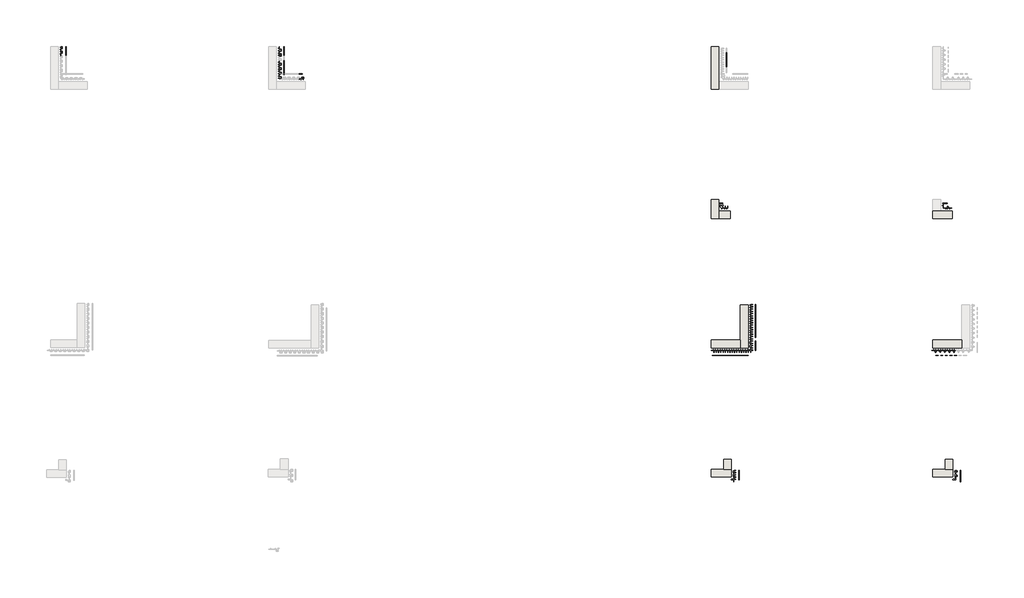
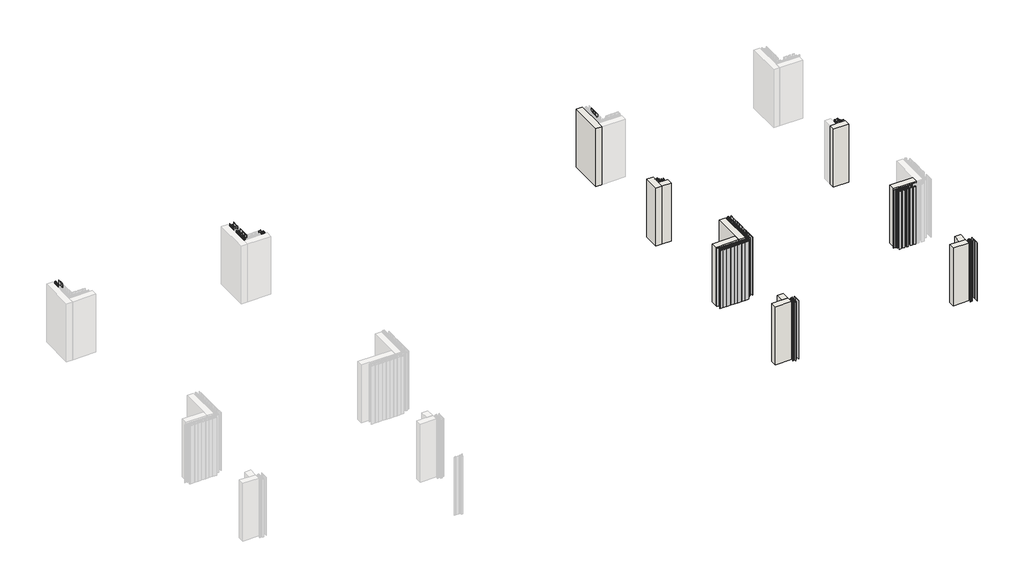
# One storey, part 4 of 5: 48 plates, 43 members, 11 walls.
"""IFC4 building model written with IfcOpenShell, lengths in millimetres."""

from ifc_helpers import new_model, si_unit, origin, origin_with_axes, place, context, project, spatial, polyline, outline, extrude, faceted_brep, transform, mapped, element, save
from components import rectangular_mullion_05be598c, rectangular_mullion_7167efe5, rectangular_mullion_7a3c55a6, rectangular_mullion_c17fce0e, rectangular_mullion_cac204a1, rectangular_mullion_3e5b5e47, rectangular_mullion_b2541346, rectangular_mullion_31400e68, rectangular_mullion_de2d1e93, rectangular_mullion_1797d992, rectangular_mullion_e9b3b9de, rectangular_mullion_48ee93ce, rectangular_mullion_e8a25713, rectangular_mullion_3e41cb3b, rectangular_mullion_2a772050, rectangular_mullion_e46097ff, empty_system_panel_empty_1becab5c, empty_system_panel_empty_1ebb3388, empty_system_panel_empty_e98d4713, empty_system_panel_empty_a56830bf, empty_system_panel_empty_3145cffd, empty_system_panel_empty_abc43946, empty_system_panel_empty_5cad0f82, empty_system_panel_empty_5dcf6e88, empty_system_panel_empty_f535094f, empty_system_panel_empty_5ee57205, empty_system_panel_empty_482ac549, empty_system_panel_empty_c6af10a3, empty_system_panel_empty_83ace052, empty_system_panel_empty_0b05d00b, empty_system_panel_empty_9f07cc8d, empty_system_panel_empty_fabe9b0d, empty_system_panel_empty_e2c7f9f0, empty_system_panel_empty_bd5c2647, empty_system_panel_empty_02ad7564

model = new_model("IFC4")

# Units and contexts
model_context = context("Model", 3, world=origin())
ifc_project = project(units=[si_unit("LENGTHUNIT", "METRE", prefix="MILLI")], contexts=[model_context])

# Site, building, storey
site = spatial("IfcSite", under=ifc_project)
building = spatial("IfcBuilding", under=site)
storey = spatial("IfcBuildingStorey", under=building, Name="REN - Ground plan", Elevation=0.0)

# Members
placement = place(None, origin())
rectangular_mullion_shape = rectangular_mullion_05be598c(model_context)
element("IfcMember", 1, ObjectType="Rectangular Mullion : Renson_Linarte_LA-CO-05", at=placement, inside=storey, context=model_context, shape_type="MappedRepresentation", body=[
    mapped(rectangular_mullion_shape, transform((15924.5640555, 8535.7400803, 0.0), x_axis=(0.0, -1.0, 0.0), y_axis=(-1.0, 0.0, 0.0), z_axis=(0.0, 0.0, -1.0))),
])
rectangular_mullion_2_shape = rectangular_mullion_7167efe5(model_context)
element("IfcMember", 2, ObjectType="Rectangular Mullion : Renson_Linarte_LA-CO-02", at=placement, inside=storey, context=model_context, shape_type="MappedRepresentation", body=[
    mapped(rectangular_mullion_2_shape, transform((15924.5640555, 8558.8845222, 1000.0), x_axis=(0.0, 1.0, 0.0), y_axis=(-1.0, 0.0, 0.0), z_axis=(0.0, 0.0, 1.0))),
])
rectangular_mullion_3_shape = rectangular_mullion_7a3c55a6(model_context)
element("IfcMember", 3, ObjectType="Rectangular Mullion : Renson_Linarte_LA-CO-03", at=placement, inside=storey, context=model_context, shape_type="MappedRepresentation", body=[
    mapped(rectangular_mullion_3_shape, transform((15924.5640557, 8434.9081347, 0.0), x_axis=(0.0, -1.0, 0.0), y_axis=(-1.0, 0.0, 0.0), z_axis=(0.0, 0.0, -1.0))),
])
rectangular_mullion_4_shape = rectangular_mullion_c17fce0e(model_context)
element("IfcMember", 4, ObjectType="Rectangular Mullion : Renson_Linarte_LA-CO-04", at=placement, inside=storey, context=model_context, shape_type="MappedRepresentation", body=[
    mapped(rectangular_mullion_4_shape, transform((15789.5640556, 11955.329319, 1000.0), x_axis=(-1.0, 0.0, 0.0), y_axis=(0.0, -1.0, 0.0), z_axis=(0.0, 0.0, 1.0))),
])
rectangular_mullion_5_shape = rectangular_mullion_cac204a1(model_context)
element("IfcMember", 5, ObjectType="Rectangular Mullion : Renson_Linarte_LA-CO-01", at=placement, inside=storey, context=model_context, shape_type="MappedRepresentation", body=[
    mapped(rectangular_mullion_5_shape, transform((15909.5640556, 11955.329319, 0.0), x_axis=(1.0, 0.0, 0.0), y_axis=(0.0, -1.0, 0.0), z_axis=(0.0, 0.0, -1.0))),
])
rectangular_mullion_6_shape = rectangular_mullion_3e5b5e47(model_context)
element("IfcMember", 6, ObjectType="Rectangular Mullion : Renson_Linarte_LA-B25-01", at=placement, inside=storey, context=model_context, shape_type="MappedRepresentation", body=[
    mapped(rectangular_mullion_6_shape, transform((7072.7344967, 14048.7579429, 0.0), x_axis=(0.0, -1.0, 0.0), y_axis=(-1.0, 0.0, 0.0), z_axis=(0.0, 0.0, -1.0))),
])
element("IfcMember", 7, ObjectType="Rectangular Mullion : Renson_Linarte_LA-B25-01", at=placement, inside=storey, context=model_context, shape_type="MappedRepresentation", body=[
    mapped(rectangular_mullion_6_shape, transform((7072.7344967, 13928.7579429, 0.0), x_axis=(0.0, -1.0, 0.0), y_axis=(-1.0, 0.0, 0.0), z_axis=(0.0, 0.0, -1.0))),
])
element("IfcMember", 8, ObjectType="Rectangular Mullion : Renson_Linarte_LA-B25-01", at=placement, inside=storey, context=model_context, shape_type="MappedRepresentation", body=[
    mapped(rectangular_mullion_6_shape, transform((7072.7344967, 13868.7579429, 0.0), x_axis=(0.0, -1.0, 0.0), y_axis=(-1.0, 0.0, 0.0), z_axis=(0.0, 0.0, -1.0))),
])
element("IfcMember", 9, ObjectType="Rectangular Mullion : Renson_Linarte_LA-B25-01", at=placement, inside=storey, context=model_context, shape_type="MappedRepresentation", body=[
    mapped(rectangular_mullion_6_shape, transform((7072.7344967, 13808.7579429, 0.0), x_axis=(0.0, -1.0, 0.0), y_axis=(-1.0, 0.0, 0.0), z_axis=(0.0, 0.0, -1.0))),
])
element("IfcMember", 10, ObjectType="Rectangular Mullion : Renson_Linarte_LA-B25-01", at=placement, inside=storey, context=model_context, shape_type="MappedRepresentation", body=[
    mapped(rectangular_mullion_6_shape, transform((7072.7344967, 13748.7579429, 0.0), x_axis=(0.0, -1.0, 0.0), y_axis=(-1.0, 0.0, 0.0), z_axis=(0.0, 0.0, -1.0))),
])
element("IfcMember", 11, ObjectType="Rectangular Mullion : Renson_Linarte_LA-B25-01", at=placement, inside=storey, context=model_context, shape_type="MappedRepresentation", body=[
    mapped(rectangular_mullion_6_shape, transform((7367.734497, 13647.7579432, 0.0), x_axis=(1.0, 0.0, 0.0), y_axis=(0.0, -1.0, 0.0), z_axis=(0.0, 0.0, -1.0))),
])
rectangular_mullion_7_shape = rectangular_mullion_b2541346(model_context)
element("IfcMember", 12, ObjectType="Rectangular Mullion : Renson_Linarte_LA-B25-01", at=placement, inside=storey, context=model_context, shape_type="MappedRepresentation", body=[
    mapped(rectangular_mullion_7_shape, transform((7072.7344967, 14108.7579432, 1000.0), x_axis=(0.0, 1.0, 0.0), y_axis=(-1.0, 0.0, 0.0), z_axis=(0.0, 0.0, 1.0))),
])
rectangular_mullion_8_shape = rectangular_mullion_31400e68(model_context)
element("IfcMember", 13, ObjectType="Rectangular Mullion : Renson_Linarte_LA-B16-01", at=placement, inside=storey, context=model_context, shape_type="MappedRepresentation", body=[
    mapped(rectangular_mullion_8_shape, transform((4216.7742527, 14048.7579429, 0.0), x_axis=(0.0, -1.0, 0.0), y_axis=(-1.0, 0.0, 0.0), z_axis=(0.0, 0.0, -1.0))),
])
rectangular_mullion_9_shape = rectangular_mullion_de2d1e93(model_context)
element("IfcMember", 14, ObjectType="Rectangular Mullion : Renson_Linarte_LA-B16-01", at=placement, inside=storey, context=model_context, shape_type="MappedRepresentation", body=[
    mapped(rectangular_mullion_9_shape, transform((4216.7742527, 14108.7579432, 1000.0), x_axis=(0.0, 1.0, 0.0), y_axis=(-1.0, 0.0, 0.0), z_axis=(0.0, 0.0, 1.0))),
])
rectangular_mullion_10_shape = rectangular_mullion_1797d992(model_context)
element("IfcMember", 15, ObjectType="Rectangular Mullion : Renson_Linarte_LA-E25-01", at=placement, inside=storey, context=model_context, shape_type="MappedRepresentation", body=[
    mapped(rectangular_mullion_10_shape, transform((13244.5640555, 10731.3006456, 1000.0), x_axis=(0.0, 1.0, 0.0), y_axis=(-1.0, 0.0, 0.0), z_axis=(0.0, 0.0, 1.0))),
])
element("IfcMember", 16, ObjectType="Rectangular Mullion : Renson_Linarte_LA-E25-01", at=placement, inside=storey, context=model_context, shape_type="MappedRepresentation", body=[
    mapped(rectangular_mullion_10_shape, transform((13249.6640552, 10162.9006947, 1000.0), x_axis=(1.0, 0.0, 0.0), y_axis=(0.0, 1.0, 0.0), z_axis=(0.0, 0.0, 1.0))),
])
rectangular_mullion_11_shape = rectangular_mullion_e9b3b9de(model_context)
element("IfcMember", 17, ObjectType="Rectangular Mullion : Renson_Linarte_LA-E25-01", at=placement, inside=storey, context=model_context, shape_type="MappedRepresentation", body=[
    mapped(rectangular_mullion_11_shape, transform((13244.5640555, 10671.3006453, 0.0), x_axis=(0.0, -1.0, 0.0), y_axis=(-1.0, 0.0, 0.0), z_axis=(0.0, 0.0, -1.0))),
])
element("IfcMember", 18, ObjectType="Rectangular Mullion : Renson_Linarte_LA-E25-01", at=placement, inside=storey, context=model_context, shape_type="MappedRepresentation", body=[
    mapped(rectangular_mullion_11_shape, transform((13244.5640555, 10611.3006453, 0.0), x_axis=(0.0, -1.0, 0.0), y_axis=(-1.0, 0.0, 0.0), z_axis=(0.0, 0.0, -1.0))),
])
element("IfcMember", 19, ObjectType="Rectangular Mullion : Renson_Linarte_LA-E25-01", at=placement, inside=storey, context=model_context, shape_type="MappedRepresentation", body=[
    mapped(rectangular_mullion_11_shape, transform((13244.5640555, 10551.3006453, 0.0), x_axis=(0.0, -1.0, 0.0), y_axis=(-1.0, 0.0, 0.0), z_axis=(0.0, 0.0, -1.0))),
])
element("IfcMember", 20, ObjectType="Rectangular Mullion : Renson_Linarte_LA-E25-01", at=placement, inside=storey, context=model_context, shape_type="MappedRepresentation", body=[
    mapped(rectangular_mullion_11_shape, transform((13244.5640555, 10491.3006453, 0.0), x_axis=(0.0, -1.0, 0.0), y_axis=(-1.0, 0.0, 0.0), z_axis=(0.0, 0.0, -1.0))),
])
element("IfcMember", 21, ObjectType="Rectangular Mullion : Renson_Linarte_LA-E25-01", at=placement, inside=storey, context=model_context, shape_type="MappedRepresentation", body=[
    mapped(rectangular_mullion_11_shape, transform((13244.5640555, 10431.3006453, 0.0), x_axis=(0.0, -1.0, 0.0), y_axis=(-1.0, 0.0, 0.0), z_axis=(0.0, 0.0, -1.0))),
])
element("IfcMember", 22, ObjectType="Rectangular Mullion : Renson_Linarte_LA-E25-01", at=placement, inside=storey, context=model_context, shape_type="MappedRepresentation", body=[
    mapped(rectangular_mullion_11_shape, transform((13189.6640549, 10162.9006947, 0.0), x_axis=(-1.0, 0.0, 0.0), y_axis=(0.0, 1.0, 0.0), z_axis=(0.0, 0.0, -1.0))),
])
element("IfcMember", 23, ObjectType="Rectangular Mullion : Renson_Linarte_LA-E25-01", at=placement, inside=storey, context=model_context, shape_type="MappedRepresentation", body=[
    mapped(rectangular_mullion_11_shape, transform((13129.6640549, 10162.9006947, 0.0), x_axis=(-1.0, 0.0, 0.0), y_axis=(0.0, 1.0, 0.0), z_axis=(0.0, 0.0, -1.0))),
])
element("IfcMember", 24, ObjectType="Rectangular Mullion : Renson_Linarte_LA-E25-01", at=placement, inside=storey, context=model_context, shape_type="MappedRepresentation", body=[
    mapped(rectangular_mullion_11_shape, transform((13069.6640549, 10162.9006947, 0.0), x_axis=(-1.0, 0.0, 0.0), y_axis=(0.0, 1.0, 0.0), z_axis=(0.0, 0.0, -1.0))),
])
element("IfcMember", 25, ObjectType="Rectangular Mullion : Renson_Linarte_LA-E25-01", at=placement, inside=storey, context=model_context, shape_type="MappedRepresentation", body=[
    mapped(rectangular_mullion_11_shape, transform((13009.6640549, 10162.9006947, 0.0), x_axis=(-1.0, 0.0, 0.0), y_axis=(0.0, 1.0, 0.0), z_axis=(0.0, 0.0, -1.0))),
])
element("IfcMember", 26, ObjectType="Rectangular Mullion : Renson_Linarte_LA-E25-01", at=placement, inside=storey, context=model_context, shape_type="MappedRepresentation", body=[
    mapped(rectangular_mullion_11_shape, transform((12949.6640549, 10162.9006947, 0.0), x_axis=(-1.0, 0.0, 0.0), y_axis=(0.0, 1.0, 0.0), z_axis=(0.0, 0.0, -1.0))),
])
element("IfcMember", 27, ObjectType="Rectangular Mullion : Renson_Linarte_LA-E25-01", at=placement, inside=storey, context=model_context, shape_type="MappedRepresentation", body=[
    mapped(rectangular_mullion_11_shape, transform((12889.6640549, 10162.9006947, 0.0), x_axis=(-1.0, 0.0, 0.0), y_axis=(0.0, 1.0, 0.0), z_axis=(0.0, 0.0, -1.0))),
])
element("IfcMember", 28, ObjectType="Rectangular Mullion : Renson_Linarte_LA-E25-01", at=placement, inside=storey, context=model_context, shape_type="MappedRepresentation", body=[
    mapped(rectangular_mullion_11_shape, transform((13244.5640555, 10371.3006453, 0.0), x_axis=(0.0, -1.0, 0.0), y_axis=(-1.0, 0.0, 0.0), z_axis=(0.0, 0.0, -1.0))),
])
element("IfcMember", 29, ObjectType="Rectangular Mullion : Renson_Linarte_LA-E25-01", at=placement, inside=storey, context=model_context, shape_type="MappedRepresentation", body=[
    mapped(rectangular_mullion_11_shape, transform((13244.5640555, 10311.3006453, 0.0), x_axis=(0.0, -1.0, 0.0), y_axis=(-1.0, 0.0, 0.0), z_axis=(0.0, 0.0, -1.0))),
])
element("IfcMember", 30, ObjectType="Rectangular Mullion : Renson_Linarte_LA-E25-01", at=placement, inside=storey, context=model_context, shape_type="MappedRepresentation", body=[
    mapped(rectangular_mullion_11_shape, transform((12829.6640549, 10162.9006947, 0.0), x_axis=(-1.0, 0.0, 0.0), y_axis=(0.0, 1.0, 0.0), z_axis=(0.0, 0.0, -1.0))),
])
rectangular_mullion_12_shape = rectangular_mullion_48ee93ce(model_context)
element("IfcMember", 31, ObjectType="Rectangular Mullion : Renson_Linarte_LA-E25-05", at=placement, inside=storey, context=model_context, shape_type="MappedRepresentation", body=[
    mapped(rectangular_mullion_12_shape, transform((13244.5640555, 10228.1562035, 0.0), x_axis=(0.0, -1.0, 0.0), y_axis=(-1.0, 0.0, 0.0), z_axis=(0.0, 0.0, -1.0))),
])
element("IfcMember", 32, ObjectType="Rectangular Mullion : Renson_Linarte_LA-E25-05", at=placement, inside=storey, context=model_context, shape_type="MappedRepresentation", body=[
    mapped(rectangular_mullion_12_shape, transform((13024.5640555, 8535.7275792, 0.0), x_axis=(0.0, -1.0, 0.0), y_axis=(-1.0, 0.0, 0.0), z_axis=(0.0, 0.0, -1.0))),
])
rectangular_mullion_13_shape = rectangular_mullion_e8a25713(model_context)
element("IfcMember", 33, ObjectType="Rectangular Mullion : Renson_Linarte_LA-E25-02", at=placement, inside=storey, context=model_context, shape_type="MappedRepresentation", body=[
    mapped(rectangular_mullion_13_shape, transform((13244.5640555, 10251.3006453, 1000.0), x_axis=(0.0, 1.0, 0.0), y_axis=(-1.0, 0.0, 0.0), z_axis=(0.0, 0.0, 1.0))),
])
element("IfcMember", 34, ObjectType="Rectangular Mullion : Renson_Linarte_LA-E25-02", at=placement, inside=storey, context=model_context, shape_type="MappedRepresentation", body=[
    mapped(rectangular_mullion_13_shape, transform((13024.5640555, 8558.8720211, 1000.0), x_axis=(0.0, 1.0, 0.0), y_axis=(-1.0, 0.0, 0.0), z_axis=(0.0, 0.0, 1.0))),
])
rectangular_mullion_14_shape = rectangular_mullion_3e41cb3b(model_context)
element("IfcMember", 35, ObjectType="Rectangular Mullion : Renson_Linarte_LA-E25-03", at=placement, inside=storey, context=model_context, shape_type="MappedRepresentation", body=[
    mapped(rectangular_mullion_14_shape, transform((13244.5640555, 10101.3006453, 0.0), x_axis=(0.0, -1.0, 0.0), y_axis=(-1.0, 0.0, 0.0), z_axis=(0.0, 0.0, -1.0))),
])
element("IfcMember", 36, ObjectType="Rectangular Mullion : Renson_Linarte_LA-E25-03", at=placement, inside=storey, context=model_context, shape_type="MappedRepresentation", body=[
    mapped(rectangular_mullion_14_shape, transform((13024.5640555, 8408.8720211, 0.0), x_axis=(0.0, -1.0, 0.0), y_axis=(-1.0, 0.0, 0.0), z_axis=(0.0, 0.0, -1.0))),
])
rectangular_mullion_15_shape = rectangular_mullion_2a772050(model_context)
element("IfcMember", 37, ObjectType="Rectangular Mullion : Renson_Linarte_LA-A04", at=placement, inside=storey, context=model_context, shape_type="MappedRepresentation", body=[
    mapped(rectangular_mullion_15_shape, transform((12864.5640554, 11955.329319, 1000.0), x_axis=(-1.0, 0.0, 0.0), y_axis=(0.0, -1.0, 0.0), z_axis=(0.0, 0.0, 1.0))),
])
element("IfcMember", 38, ObjectType="Rectangular Mullion : Renson_Linarte_LA-E25-01_", at=placement, inside=storey, context=model_context, shape_type="MappedRepresentation", body=[
    mapped(rectangular_mullion_10_shape, transform((12979.5640554, 11955.329319, 0.0), x_axis=(1.0, 0.0, 0.0), y_axis=(0.0, -1.0, 0.0), z_axis=(0.0, 0.0, -1.0))),
])
rectangular_mullion_16_shape = rectangular_mullion_e46097ff(model_context)
element("IfcMember", 39, ObjectType="Rectangular Mullion : Renson_Linarte_LA-CO-01", at=placement, inside=storey, context=model_context, shape_type="MappedRepresentation", body=[
    mapped(rectangular_mullion_16_shape, transform((15955.5642221, 10162.9006947, 0.0), x_axis=(-1.0, 0.0, 0.0), y_axis=(0.0, 1.0, 0.0), z_axis=(0.0, 0.0, -1.0))),
])
element("IfcMember", 40, ObjectType="Rectangular Mullion : Renson_Linarte_LA-CO-01", at=placement, inside=storey, context=model_context, shape_type="MappedRepresentation", body=[
    mapped(rectangular_mullion_16_shape, transform((15895.5642221, 10162.9006947, 0.0), x_axis=(-1.0, 0.0, 0.0), y_axis=(0.0, 1.0, 0.0), z_axis=(0.0, 0.0, -1.0))),
])
element("IfcMember", 41, ObjectType="Rectangular Mullion : Renson_Linarte_LA-CO-01", at=placement, inside=storey, context=model_context, shape_type="MappedRepresentation", body=[
    mapped(rectangular_mullion_16_shape, transform((15835.5642221, 10162.9006947, 0.0), x_axis=(-1.0, 0.0, 0.0), y_axis=(0.0, 1.0, 0.0), z_axis=(0.0, 0.0, -1.0))),
])
element("IfcMember", 42, ObjectType="Rectangular Mullion : Renson_Linarte_LA-CO-01", at=placement, inside=storey, context=model_context, shape_type="MappedRepresentation", body=[
    mapped(rectangular_mullion_16_shape, transform((15775.5642221, 10162.9006947, 0.0), x_axis=(-1.0, 0.0, 0.0), y_axis=(0.0, 1.0, 0.0), z_axis=(0.0, 0.0, -1.0))),
])
element("IfcMember", 43, ObjectType="Rectangular Mullion : Renson_Linarte_LA-CO-01", at=placement, inside=storey, context=model_context, shape_type="MappedRepresentation", body=[
    mapped(rectangular_mullion_16_shape, transform((15715.5642221, 10162.9006947, 0.0), x_axis=(-1.0, 0.0, 0.0), y_axis=(0.0, 1.0, 0.0), z_axis=(0.0, 0.0, -1.0))),
])

# Plates
empty_system_panel_empty_shape = empty_system_panel_empty_1becab5c(model_context)
element("IfcPlate", 44, ObjectType="Empty System Panel : Empty", at=placement, inside=storey, context=model_context, shape_type="MappedRepresentation", body=[
    mapped(empty_system_panel_empty_shape, transform((15924.5640555, 8536.97411, 0.0), x_axis=(0.0, -1.0, 0.0), y_axis=(1.0, 0.0, 0.0), z_axis=(0.0, 0.0, 1.0))),
])
empty_system_panel_empty_2_shape = empty_system_panel_empty_1ebb3388(model_context)
element("IfcPlate", 45, ObjectType="Empty System Panel : Empty", at=placement, inside=storey, context=model_context, shape_type="MappedRepresentation", body=[
    mapped(empty_system_panel_empty_2_shape, transform((15924.5640555, 8503.9593553, 0.0), x_axis=(0.0, -1.0, 0.0), y_axis=(1.0, 0.0, 0.0), z_axis=(0.0, 0.0, 1.0))),
])
empty_system_panel_empty_3_shape = empty_system_panel_empty_e98d4713(model_context)
element("IfcPlate", 46, ObjectType="Empty System Panel : Empty", at=placement, inside=storey, context=model_context, shape_type="MappedRepresentation", body=[
    mapped(empty_system_panel_empty_3_shape, transform((15924.5640555, 8440.5315763, 0.0), x_axis=(0.0, -1.0, 0.0), y_axis=(1.0, 0.0, 0.0), z_axis=(0.0, 0.0, 1.0))),
])
empty_system_panel_empty_4_shape = empty_system_panel_empty_a56830bf(model_context)
element("IfcPlate", 47, ObjectType="Empty System Panel : Empty", at=placement, inside=storey, context=model_context, shape_type="MappedRepresentation", body=[
    mapped(empty_system_panel_empty_4_shape, transform((15924.5640555, 8514.2998, 0.0), x_axis=(0.0, -1.0, 0.0), y_axis=(1.0, 0.0, 0.0), z_axis=(0.0, 0.0, 1.0))),
])
empty_system_panel_empty_5_shape = empty_system_panel_empty_3145cffd(model_context)
element("IfcPlate", 48, ObjectType="Empty System Panel : Empty", at=placement, inside=storey, context=model_context, shape_type="MappedRepresentation", body=[
    mapped(empty_system_panel_empty_5_shape, transform((15924.5640555, 8459.8720207, 0.0), x_axis=(0.0, -1.0, 0.0), y_axis=(1.0, 0.0, 0.0), z_axis=(0.0, 0.0, 1.0))),
])
empty_system_panel_empty_6_shape = empty_system_panel_empty_abc43946(model_context)
element("IfcPlate", 49, ObjectType="Empty System Panel : Empty", at=placement, inside=storey, context=model_context, shape_type="MappedRepresentation", body=[
    mapped(empty_system_panel_empty_6_shape, transform((15924.5640555, 8417.8720209, 0.0), x_axis=(0.0, -1.0, 0.0), y_axis=(1.0, 0.0, 0.0), z_axis=(0.0, 0.0, 1.0))),
])
empty_system_panel_empty_7_shape = empty_system_panel_empty_5cad0f82(model_context)
element("IfcPlate", 50, ObjectType="Empty System Panel : Empty", at=placement, inside=storey, context=model_context, shape_type="MappedRepresentation", body=[
    mapped(empty_system_panel_empty_7_shape, transform((15924.5640557, 8487.4720703, 0.0), x_axis=(0.0, -1.0, 0.0), y_axis=(1.0, 0.0, 0.0), z_axis=(0.0, 0.0, 1.0))),
])
empty_system_panel_empty_8_shape = empty_system_panel_empty_5dcf6e88(model_context)
element("IfcPlate", 51, ObjectType="Empty System Panel : Empty", at=placement, inside=storey, context=model_context, shape_type="MappedRepresentation", body=[
    mapped(empty_system_panel_empty_8_shape, transform((15821.8433367, 11955.329319, 0.0), x_axis=(1.0, 0.0, 0.0), y_axis=(0.0, 1.0, 0.0), z_axis=(0.0, 0.0, 1.0))),
])
empty_system_panel_empty_9_shape = empty_system_panel_empty_f535094f(model_context)
element("IfcPlate", 52, ObjectType="Empty System Panel : Empty", at=placement, inside=storey, context=model_context, shape_type="MappedRepresentation", body=[
    mapped(empty_system_panel_empty_9_shape, transform((15851.384756, 11955.329319, 0.0), x_axis=(1.0, 0.0, 0.0), y_axis=(0.0, 1.0, 0.0), z_axis=(0.0, 0.0, 1.0))),
])
empty_system_panel_empty_10_shape = empty_system_panel_empty_5ee57205(model_context)
element("IfcPlate", 53, ObjectType="Empty System Panel : Empty", at=placement, inside=storey, context=model_context, shape_type="MappedRepresentation", body=[
    mapped(empty_system_panel_empty_10_shape, transform((13244.5640555, 10641.3006453, 0.0), x_axis=(0.0, -1.0, 0.0), y_axis=(1.0, 0.0, 0.0), z_axis=(0.0, 0.0, 1.0))),
])
element("IfcPlate", 54, ObjectType="Empty System Panel : Empty", at=placement, inside=storey, context=model_context, shape_type="MappedRepresentation", body=[
    mapped(empty_system_panel_empty_10_shape, transform((13244.5640555, 10581.3006453, 0.0), x_axis=(0.0, -1.0, 0.0), y_axis=(1.0, 0.0, 0.0), z_axis=(0.0, 0.0, 1.0))),
])
element("IfcPlate", 55, ObjectType="Empty System Panel : Empty", at=placement, inside=storey, context=model_context, shape_type="MappedRepresentation", body=[
    mapped(empty_system_panel_empty_10_shape, transform((13244.5640555, 10521.3006453, 0.0), x_axis=(0.0, -1.0, 0.0), y_axis=(1.0, 0.0, 0.0), z_axis=(0.0, 0.0, 1.0))),
])
element("IfcPlate", 56, ObjectType="Empty System Panel : Empty", at=placement, inside=storey, context=model_context, shape_type="MappedRepresentation", body=[
    mapped(empty_system_panel_empty_10_shape, transform((13244.5640555, 10461.3006453, 0.0), x_axis=(0.0, -1.0, 0.0), y_axis=(1.0, 0.0, 0.0), z_axis=(0.0, 0.0, 1.0))),
])
element("IfcPlate", 57, ObjectType="Empty System Panel : Empty", at=placement, inside=storey, context=model_context, shape_type="MappedRepresentation", body=[
    mapped(empty_system_panel_empty_10_shape, transform((13244.5640555, 10401.3006453, 0.0), x_axis=(0.0, -1.0, 0.0), y_axis=(1.0, 0.0, 0.0), z_axis=(0.0, 0.0, 1.0))),
])
element("IfcPlate", 58, ObjectType="Empty System Panel : Empty", at=placement, inside=storey, context=model_context, shape_type="MappedRepresentation", body=[
    mapped(empty_system_panel_empty_10_shape, transform((13159.6640549, 10162.9006947, 0.0), x_axis=(-1.0, 0.0, 0.0), y_axis=(0.0, -1.0, 0.0), z_axis=(0.0, 0.0, 1.0))),
])
element("IfcPlate", 59, ObjectType="Empty System Panel : Empty", at=placement, inside=storey, context=model_context, shape_type="MappedRepresentation", body=[
    mapped(empty_system_panel_empty_10_shape, transform((13099.6640549, 10162.9006947, 0.0), x_axis=(-1.0, 0.0, 0.0), y_axis=(0.0, -1.0, 0.0), z_axis=(0.0, 0.0, 1.0))),
])
element("IfcPlate", 60, ObjectType="Empty System Panel : Empty", at=placement, inside=storey, context=model_context, shape_type="MappedRepresentation", body=[
    mapped(empty_system_panel_empty_10_shape, transform((13039.6640549, 10162.9006947, 0.0), x_axis=(-1.0, 0.0, 0.0), y_axis=(0.0, -1.0, 0.0), z_axis=(0.0, 0.0, 1.0))),
])
element("IfcPlate", 61, ObjectType="Empty System Panel : Empty", at=placement, inside=storey, context=model_context, shape_type="MappedRepresentation", body=[
    mapped(empty_system_panel_empty_10_shape, transform((12979.6640549, 10162.9006947, 0.0), x_axis=(-1.0, 0.0, 0.0), y_axis=(0.0, -1.0, 0.0), z_axis=(0.0, 0.0, 1.0))),
])
element("IfcPlate", 62, ObjectType="Empty System Panel : Empty", at=placement, inside=storey, context=model_context, shape_type="MappedRepresentation", body=[
    mapped(empty_system_panel_empty_10_shape, transform((12919.6640549, 10162.9006947, 0.0), x_axis=(-1.0, 0.0, 0.0), y_axis=(0.0, -1.0, 0.0), z_axis=(0.0, 0.0, 1.0))),
])
element("IfcPlate", 63, ObjectType="Empty System Panel : Empty", at=placement, inside=storey, context=model_context, shape_type="MappedRepresentation", body=[
    mapped(empty_system_panel_empty_10_shape, transform((12859.6640549, 10162.9006947, 0.0), x_axis=(-1.0, 0.0, 0.0), y_axis=(0.0, -1.0, 0.0), z_axis=(0.0, 0.0, 1.0))),
])
element("IfcPlate", 64, ObjectType="Empty System Panel : Empty", at=placement, inside=storey, context=model_context, shape_type="MappedRepresentation", body=[
    mapped(empty_system_panel_empty_10_shape, transform((13244.5640555, 10341.3006453, 0.0), x_axis=(0.0, -1.0, 0.0), y_axis=(1.0, 0.0, 0.0), z_axis=(0.0, 0.0, 1.0))),
])
element("IfcPlate", 65, ObjectType="Empty System Panel : Empty", at=placement, inside=storey, context=model_context, shape_type="MappedRepresentation", body=[
    mapped(empty_system_panel_empty_10_shape, transform((12864.5640556, 13995.2579429, 0.0), x_axis=(0.0, -1.0, 0.0), y_axis=(1.0, 0.0, 0.0), z_axis=(0.0, 0.0, 1.0))),
])
element("IfcPlate", 66, ObjectType="Empty System Panel : Empty", at=placement, inside=storey, context=model_context, shape_type="MappedRepresentation", body=[
    mapped(empty_system_panel_empty_10_shape, transform((12864.5640556, 13935.2579429, 0.0), x_axis=(0.0, -1.0, 0.0), y_axis=(1.0, 0.0, 0.0), z_axis=(0.0, 0.0, 1.0))),
])
element("IfcPlate", 67, ObjectType="Empty System Panel : Empty", at=placement, inside=storey, context=model_context, shape_type="MappedRepresentation", body=[
    mapped(empty_system_panel_empty_10_shape, transform((12864.5640556, 13875.2579429, 0.0), x_axis=(0.0, -1.0, 0.0), y_axis=(1.0, 0.0, 0.0), z_axis=(0.0, 0.0, 1.0))),
])
element("IfcPlate", 68, ObjectType="Empty System Panel : Empty", at=placement, inside=storey, context=model_context, shape_type="MappedRepresentation", body=[
    mapped(empty_system_panel_empty_10_shape, transform((4216.7742527, 14018.7579429, 0.0), x_axis=(0.0, -1.0, 0.0), y_axis=(1.0, 0.0, 0.0), z_axis=(0.0, 0.0, 1.0))),
])
element("IfcPlate", 69, ObjectType="Empty System Panel : Empty", at=placement, inside=storey, context=model_context, shape_type="MappedRepresentation", body=[
    mapped(empty_system_panel_empty_10_shape, transform((7072.7344967, 14018.7579429, 0.0), x_axis=(0.0, -1.0, 0.0), y_axis=(1.0, 0.0, 0.0), z_axis=(0.0, 0.0, 1.0))),
])
element("IfcPlate", 70, ObjectType="Empty System Panel : Empty", at=placement, inside=storey, context=model_context, shape_type="MappedRepresentation", body=[
    mapped(empty_system_panel_empty_10_shape, transform((7072.7344967, 13898.7579429, 0.0), x_axis=(0.0, -1.0, 0.0), y_axis=(1.0, 0.0, 0.0), z_axis=(0.0, 0.0, 1.0))),
])
element("IfcPlate", 71, ObjectType="Empty System Panel : Empty", at=placement, inside=storey, context=model_context, shape_type="MappedRepresentation", body=[
    mapped(empty_system_panel_empty_10_shape, transform((7072.7344967, 13838.7579429, 0.0), x_axis=(0.0, -1.0, 0.0), y_axis=(1.0, 0.0, 0.0), z_axis=(0.0, 0.0, 1.0))),
])
element("IfcPlate", 72, ObjectType="Empty System Panel : Empty", at=placement, inside=storey, context=model_context, shape_type="MappedRepresentation", body=[
    mapped(empty_system_panel_empty_10_shape, transform((7072.7344967, 13778.7579429, 0.0), x_axis=(0.0, -1.0, 0.0), y_axis=(1.0, 0.0, 0.0), z_axis=(0.0, 0.0, 1.0))),
])
empty_system_panel_empty_11_shape = empty_system_panel_empty_482ac549(model_context)
element("IfcPlate", 73, ObjectType="Empty System Panel : Empty", at=placement, inside=storey, context=model_context, shape_type="MappedRepresentation", body=[
    mapped(empty_system_panel_empty_11_shape, transform((13244.5640555, 10239.7284244, 0.0), x_axis=(0.0, -1.0, 0.0), y_axis=(1.0, 0.0, 0.0), z_axis=(0.0, 0.0, 1.0))),
])
element("IfcPlate", 74, ObjectType="Empty System Panel : Empty", at=placement, inside=storey, context=model_context, shape_type="MappedRepresentation", body=[
    mapped(empty_system_panel_empty_11_shape, transform((13024.5640555, 8547.2998001, 0.0), x_axis=(0.0, -1.0, 0.0), y_axis=(1.0, 0.0, 0.0), z_axis=(0.0, 0.0, 1.0))),
])
element("IfcPlate", 75, ObjectType="Empty System Panel : Empty", at=placement, inside=storey, context=model_context, shape_type="MappedRepresentation", body=[
    mapped(empty_system_panel_empty_11_shape, transform((15924.5640555, 8547.2998001, 0.0), x_axis=(0.0, -1.0, 0.0), y_axis=(1.0, 0.0, 0.0), z_axis=(0.0, 0.0, 1.0))),
])
empty_system_panel_empty_12_shape = empty_system_panel_empty_c6af10a3(model_context)
element("IfcPlate", 76, ObjectType="Empty System Panel : Empty", at=placement, inside=storey, context=model_context, shape_type="MappedRepresentation", body=[
    mapped(empty_system_panel_empty_12_shape, transform((13244.5640555, 10701.3006455, 0.0), x_axis=(0.0, -1.0, 0.0), y_axis=(1.0, 0.0, 0.0), z_axis=(0.0, 0.0, 1.0))),
])
element("IfcPlate", 77, ObjectType="Empty System Panel : Empty", at=placement, inside=storey, context=model_context, shape_type="MappedRepresentation", body=[
    mapped(empty_system_panel_empty_12_shape, transform((13219.664055, 10162.9006947, 0.0), x_axis=(-1.0, 0.0, 0.0), y_axis=(0.0, -1.0, 0.0), z_axis=(0.0, 0.0, 1.0))),
])
element("IfcPlate", 78, ObjectType="Empty System Panel : Empty", at=placement, inside=storey, context=model_context, shape_type="MappedRepresentation", body=[
    mapped(empty_system_panel_empty_12_shape, transform((4216.7742527, 14078.7579431, 0.0), x_axis=(0.0, -1.0, 0.0), y_axis=(1.0, 0.0, 0.0), z_axis=(0.0, 0.0, 1.0))),
])
element("IfcPlate", 79, ObjectType="Empty System Panel : Empty", at=placement, inside=storey, context=model_context, shape_type="MappedRepresentation", body=[
    mapped(empty_system_panel_empty_12_shape, transform((7072.7344967, 14078.7579431, 0.0), x_axis=(0.0, -1.0, 0.0), y_axis=(1.0, 0.0, 0.0), z_axis=(0.0, 0.0, 1.0))),
])
empty_system_panel_empty_13_shape = empty_system_panel_empty_83ace052(model_context)
element("IfcPlate", 80, ObjectType="Empty System Panel : Empty", at=placement, inside=storey, context=model_context, shape_type="MappedRepresentation", body=[
    mapped(empty_system_panel_empty_13_shape, transform((12803.5589563, 10162.9006947, 0.0), x_axis=(-1.0, 0.0, 0.0), y_axis=(0.0, -1.0, 0.0), z_axis=(0.0, 0.0, 1.0))),
])
empty_system_panel_empty_14_shape = empty_system_panel_empty_0b05d00b(model_context)
element("IfcPlate", 81, ObjectType="Empty System Panel : Empty", at=placement, inside=storey, context=model_context, shape_type="MappedRepresentation", body=[
    mapped(empty_system_panel_empty_14_shape, transform((13244.5640555, 10303.8006455, 0.0), x_axis=(0.0, -1.0, 0.0), y_axis=(1.0, 0.0, 0.0), z_axis=(0.0, 0.0, 1.0))),
])
empty_system_panel_empty_15_shape = empty_system_panel_empty_9f07cc8d(model_context)
element("IfcPlate", 82, ObjectType="Empty System Panel : Empty", at=placement, inside=storey, context=model_context, shape_type="MappedRepresentation", body=[
    mapped(empty_system_panel_empty_15_shape, transform((13244.5640555, 10178.2284244, 0.0), x_axis=(0.0, -1.0, 0.0), y_axis=(1.0, 0.0, 0.0), z_axis=(0.0, 0.0, 1.0))),
])
element("IfcPlate", 83, ObjectType="Empty System Panel : Empty", at=placement, inside=storey, context=model_context, shape_type="MappedRepresentation", body=[
    mapped(empty_system_panel_empty_15_shape, transform((13024.5640555, 8485.7998001, 0.0), x_axis=(0.0, -1.0, 0.0), y_axis=(1.0, 0.0, 0.0), z_axis=(0.0, 0.0, 1.0))),
])
empty_system_panel_empty_16_shape = empty_system_panel_empty_fabe9b0d(model_context)
element("IfcPlate", 84, ObjectType="Empty System Panel : Empty", at=placement, inside=storey, context=model_context, shape_type="MappedRepresentation", body=[
    mapped(empty_system_panel_empty_16_shape, transform((12888.7640554, 11955.329319, 0.0), x_axis=(1.0, 0.0, 0.0), y_axis=(0.0, 1.0, 0.0), z_axis=(0.0, 0.0, 1.0))),
])
empty_system_panel_empty_17_shape = empty_system_panel_empty_e2c7f9f0(model_context)
element("IfcPlate", 85, ObjectType="Empty System Panel : Empty", at=placement, inside=storey, context=model_context, shape_type="MappedRepresentation", body=[
    mapped(empty_system_panel_empty_17_shape, transform((7387.7344968, 13647.7579432, 0.0), x_axis=(1.0, 0.0, 0.0), y_axis=(0.0, 1.0, 0.0), z_axis=(0.0, 0.0, 1.0))),
])
empty_system_panel_empty_18_shape = empty_system_panel_empty_bd5c2647(model_context)
element("IfcPlate", 86, ObjectType="Empty System Panel : Empty", at=placement, inside=storey, context=model_context, shape_type="MappedRepresentation", body=[
    mapped(empty_system_panel_empty_18_shape, transform((7072.7344967, 13743.2579431, 0.0), x_axis=(0.0, -1.0, 0.0), y_axis=(1.0, 0.0, 0.0), z_axis=(0.0, 0.0, 1.0))),
])
empty_system_panel_empty_19_shape = empty_system_panel_empty_02ad7564(model_context)
element("IfcPlate", 87, ObjectType="Empty System Panel : Empty", at=placement, inside=storey, context=model_context, shape_type="MappedRepresentation", body=[
    mapped(empty_system_panel_empty_19_shape, transform((15959.1640549, 10162.9006947, 0.0), x_axis=(-1.0, 0.0, 0.0), y_axis=(0.0, -1.0, 0.0), z_axis=(0.0, 0.0, 1.0))),
])
element("IfcPlate", 88, ObjectType="Empty System Panel : Empty", at=placement, inside=storey, context=model_context, shape_type="MappedRepresentation", body=[
    mapped(empty_system_panel_empty_19_shape, transform((15899.1640549, 10162.9006947, 0.0), x_axis=(-1.0, 0.0, 0.0), y_axis=(0.0, -1.0, 0.0), z_axis=(0.0, 0.0, 1.0))),
])
element("IfcPlate", 89, ObjectType="Empty System Panel : Empty", at=placement, inside=storey, context=model_context, shape_type="MappedRepresentation", body=[
    mapped(empty_system_panel_empty_19_shape, transform((15839.1640549, 10162.9006947, 0.0), x_axis=(-1.0, 0.0, 0.0), y_axis=(0.0, -1.0, 0.0), z_axis=(0.0, 0.0, 1.0))),
])
element("IfcPlate", 90, ObjectType="Empty System Panel : Empty", at=placement, inside=storey, context=model_context, shape_type="MappedRepresentation", body=[
    mapped(empty_system_panel_empty_19_shape, transform((15779.1640549, 10162.9006947, 0.0), x_axis=(-1.0, 0.0, 0.0), y_axis=(0.0, -1.0, 0.0), z_axis=(0.0, 0.0, 1.0))),
])
element("IfcPlate", 91, ObjectType="Empty System Panel : Empty", at=placement, inside=storey, context=model_context, shape_type="MappedRepresentation", body=[
    mapped(empty_system_panel_empty_19_shape, transform((15719.1640549, 10162.9006947, 0.0), x_axis=(-1.0, 0.0, 0.0), y_axis=(0.0, -1.0, 0.0), z_axis=(0.0, 0.0, 1.0))),
])

# Walls
element("IfcWall", 92, ObjectType="Wall basic", at=placement, inside=storey, context=model_context, shape_type="Brep", body=[
    faceted_brep([(13144.5640555, 10724.0567224, 0.0), (13144.5640555, 10262.9006947, 0.0), (13144.5640555, 10162.9006947, 0.0), (13144.5640555, 10162.9006947, 1000.0), (13144.5640555, 10262.9006947, 1000.0), (13144.5640555, 10724.0567224, 1000.0), (13244.5640555, 10724.0567224, 0.0), (13244.5640555, 10724.0567224, 1000.0), (13244.5640555, 10162.9006947, 1000.0), (13244.5640555, 10162.9006947, 0.0)], [[[0, 1, 2, 3, 4, 5]], [[6, 7, 8, 9]], [[2, 1, 0, 6, 9]], [[5, 4, 3, 8, 7]], [[0, 5, 7, 6]], [[3, 2, 9, 8]]]),
])
element("IfcWall", 93, ObjectType="Wall basic", at=placement, inside=storey, context=model_context, shape_type="SweptSolid", body=[
    extrude(outline(polyline([(12764.5640555, 10262.9006947), (13144.5640555, 10262.9006947), (13144.5640555, 10162.9006947), (12764.5640555, 10162.9006947), (12764.5640555, 10262.9006947)])), origin_with_axes(), (0.0, 0.0, 1.0), 1000.0),
])
element("IfcWall", 94, ObjectType="Wall basic", at=placement, inside=storey, context=model_context, shape_type="SweptSolid", body=[
    extrude(outline(polyline([(12924.5640556, 8570.4720705), (12924.5640556, 8700.4720705), (13024.5640556, 8700.4720705), (13024.5640556, 8570.4720705), (12924.5640556, 8570.4720705)])), origin_with_axes(), (0.0, 0.0, 1.0), 1000.0),
])
element("IfcWall", 95, ObjectType="Wall basic", at=placement, inside=storey, context=model_context, shape_type="Brep", body=[
    faceted_brep([(13024.5640556, 8570.4720705, 0.0), (12924.5640556, 8570.4720705, 0.0), (12764.5640556, 8570.4720705, 0.0), (12764.5640556, 8570.4720705, 1000.0), (12924.5640556, 8570.4720705, 1000.0), (13024.5640556, 8570.4720705, 1000.0), (13024.5640556, 8470.4720705, 0.0), (13024.5640556, 8470.4720705, 1000.0), (12764.5640556, 8470.4720705, 1000.0), (12764.5640556, 8470.4720705, 0.0)], [[[0, 1, 2, 3, 4, 5]], [[6, 7, 8, 9]], [[2, 1, 0, 6, 9]], [[3, 2, 9, 8]], [[5, 4, 3, 8, 7]], [[0, 5, 7, 6]]]),
])
element("IfcWall", 96, ObjectType="Wall basic", at=placement, inside=storey, context=model_context, shape_type="Brep", body=[
    faceted_brep([(12764.5640554, 12105.329319, 0.0), (12764.5640554, 11855.329319, 0.0), (12764.5640554, 11855.329319, 1000.0), (12764.5640554, 12105.329319, 1000.0), (12864.5640554, 12105.329319, 0.0), (12864.5640554, 12105.329319, 1000.0), (12864.5640554, 11955.329319, 1000.0), (12864.5640554, 11855.329319, 1000.0), (12864.5640554, 11855.329319, 0.0), (12864.5640554, 11955.329319, 0.0)], [[[0, 1, 2, 3]], [[4, 5, 6, 7, 8, 9]], [[1, 0, 4, 9, 8]], [[3, 2, 7, 6, 5]], [[0, 3, 5, 4]], [[2, 1, 8, 7]]]),
])
element("IfcWall", 97, ObjectType="Wall basic", at=placement, inside=storey, context=model_context, shape_type="SweptSolid", body=[
    extrude(outline(polyline([(13014.5640554, 11855.329319), (12864.5640554, 11855.329319), (12864.5640554, 11955.329319), (13014.5640554, 11955.329319), (13014.5640554, 11855.329319)])), origin_with_axes(), (0.0, 0.0, 1.0), 1000.0),
])
element("IfcWall", 98, ObjectType="Wall basic", at=placement, inside=storey, context=model_context, shape_type="Brep", body=[
    faceted_brep([(12764.5640556, 14108.7579432, 0.0), (12764.5640556, 13547.7579432, 0.0), (12764.5640556, 13547.7579432, 1000.0), (12764.5640556, 14108.7579432, 1000.0), (12864.5640556, 14108.7579432, 0.0), (12864.5640556, 14108.7579432, 1000.0), (12864.5640556, 13647.7579432, 1000.0), (12864.5640556, 13547.7579432, 1000.0), (12864.5640556, 13547.7579432, 0.0), (12864.5640556, 13647.7579432, 0.0)], [[[0, 1, 2, 3]], [[4, 5, 6, 7, 8, 9]], [[1, 0, 4, 9, 8]], [[3, 2, 7, 6, 5]], [[0, 3, 5, 4]], [[2, 1, 8, 7]]]),
])
element("IfcWall", 99, ObjectType="Wall basic", at=placement, inside=storey, context=model_context, shape_type="SweptSolid", body=[
    extrude(outline(polyline([(15664.5640555, 10262.9006947), (16044.5640555, 10262.9006947), (16044.5640555, 10162.9006947), (15664.5640555, 10162.9006947), (15664.5640555, 10262.9006947)])), origin_with_axes(), (0.0, 0.0, 1.0), 1000.0),
])
element("IfcWall", 100, ObjectType="Wall basic", at=placement, inside=storey, context=model_context, shape_type="SweptSolid", body=[
    extrude(outline(polyline([(15824.5640556, 8570.4720705), (15824.5640556, 8700.4720705), (15924.5640556, 8700.4720705), (15924.5640556, 8570.4720705), (15824.5640556, 8570.4720705)])), origin_with_axes(), (0.0, 0.0, 1.0), 1000.0),
])
element("IfcWall", 101, ObjectType="Wall basic", at=placement, inside=storey, context=model_context, shape_type="Brep", body=[
    faceted_brep([(15924.5640556, 8570.4720705, 0.0), (15824.5640556, 8570.4720705, 0.0), (15664.5640556, 8570.4720705, 0.0), (15664.5640556, 8570.4720705, 1000.0), (15824.5640556, 8570.4720705, 1000.0), (15924.5640556, 8570.4720705, 1000.0), (15924.5640556, 8470.4720705, 0.0), (15924.5640556, 8470.4720705, 1000.0), (15664.5640556, 8470.4720705, 1000.0), (15664.5640556, 8470.4720705, 0.0)], [[[0, 1, 2, 3, 4, 5]], [[6, 7, 8, 9]], [[2, 1, 0, 6, 9]], [[3, 2, 9, 8]], [[5, 4, 3, 8, 7]], [[0, 5, 7, 6]]]),
])
element("IfcWall", 102, ObjectType="Wall basic", at=placement, inside=storey, context=model_context, shape_type="Brep", body=[
    faceted_brep([(15664.5640556, 11855.329319, 0.0), (15914.5640554, 11855.329319, 0.0), (15914.5640554, 11855.329319, 1000.0), (15664.5640556, 11855.329319, 1000.0), (15664.5640556, 11955.329319, 0.0), (15664.5640556, 11955.329319, 1000.0), (15764.5640556, 11955.329319, 1000.0), (15914.5640554, 11955.329319, 1000.0), (15914.5640554, 11955.329319, 0.0), (15764.5640556, 11955.329319, 0.0)], [[[0, 1, 2, 3]], [[4, 5, 6, 7, 8, 9]], [[1, 0, 4, 9, 8]], [[2, 1, 8, 7]], [[3, 2, 7, 6, 5]], [[0, 3, 5, 4]]]),
])

save(model, "model.ifc")
